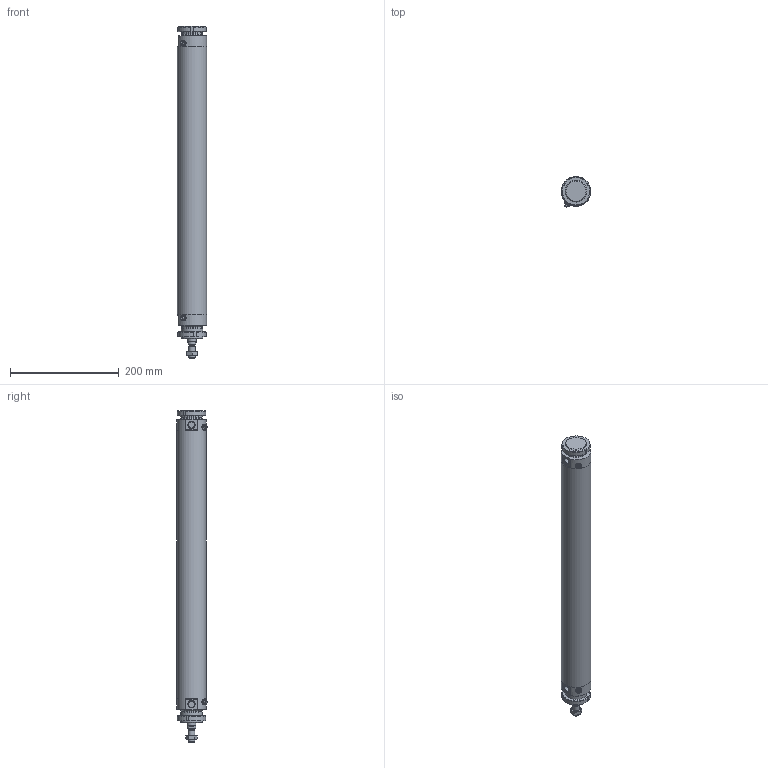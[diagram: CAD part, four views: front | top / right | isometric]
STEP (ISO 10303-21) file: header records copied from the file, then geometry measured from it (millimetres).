
FILE_DESCRIPTION(/* description */ (''),/* implementation_level */ '2;1');
FILE_NAME(/* name */ 'I:\Area Tecnica\Documenti\A-Manieri\_Inventor\12X\12X#C_###_####_#_#\12XBC_050_0450_#_#.stp',/* time_stamp */ '2015-04-28T15:44:17+02:00',/* author */ ('maniean1'),/* organization */ ('Pneumax S.p.A.'),/* preprocessor_version */ 'ST-DEVELOPER v15.2',/* originating_system */ 'Autodesk Inventor 2014',/* authorisation */ '');
FILE_SCHEMA (('AUTOMOTIVE_DESIGN { 1 0 10303 214 3 1 1 }'));
Length unit declared in the file: millimetre
Products named in the file (7): C1250_619-0450; 12X50_606; S12X50_0450; 12X_50_11; 12X50_621; G12X_050_05; 12XBC_050_0450_#_#
Bounding box: 54 x 55.88 x 610 mm (x, y, z)
Volume: 499637 mm3; surface area: 231669.7 mm2
Topology: 7 solids, 7 shells, 124 faces, 282 edges, 182 vertices
Faces by surface type: plane 64, cylinder 31, cone 27, torus 2
Full cylindrical faces by diameter (mm): 5 x2, 10.2 x1, 11 x2, 11.4 x2, 12 x2, 14 x1, 15.6 x1, 16 x1, 38.2 x2, 40 x6, 50 x2, 54 x3
Entity records: 2755 total; most frequent: CARTESIAN_POINT 553, DIRECTION 462, ORIENTED_EDGE 356, AXIS2_PLACEMENT_3D 197, EDGE_CURVE 178, EDGE_LOOP 160, VERTEX_POINT 136, ADVANCED_FACE 103
